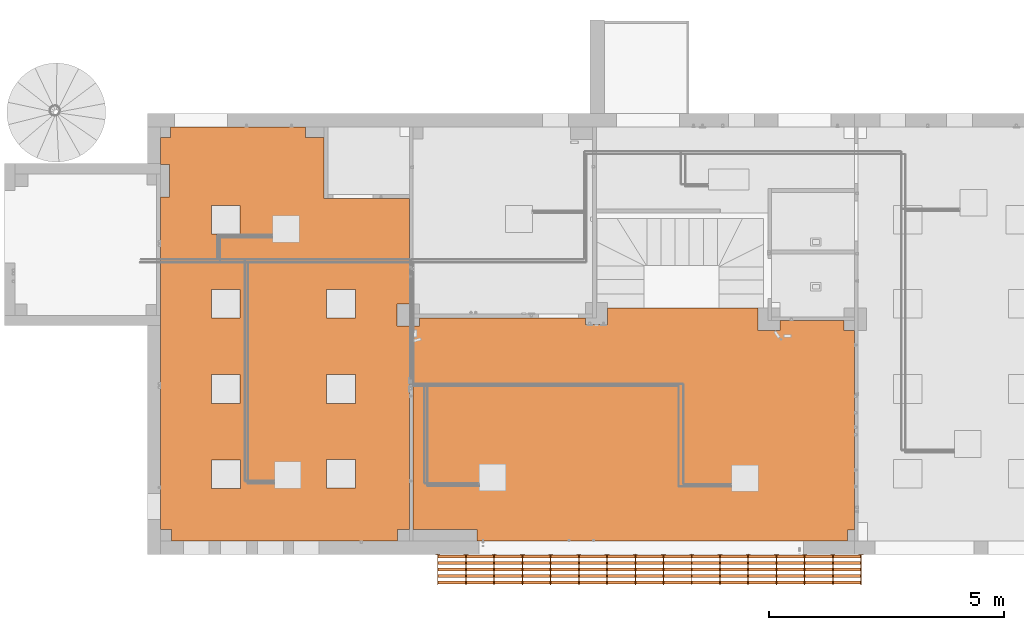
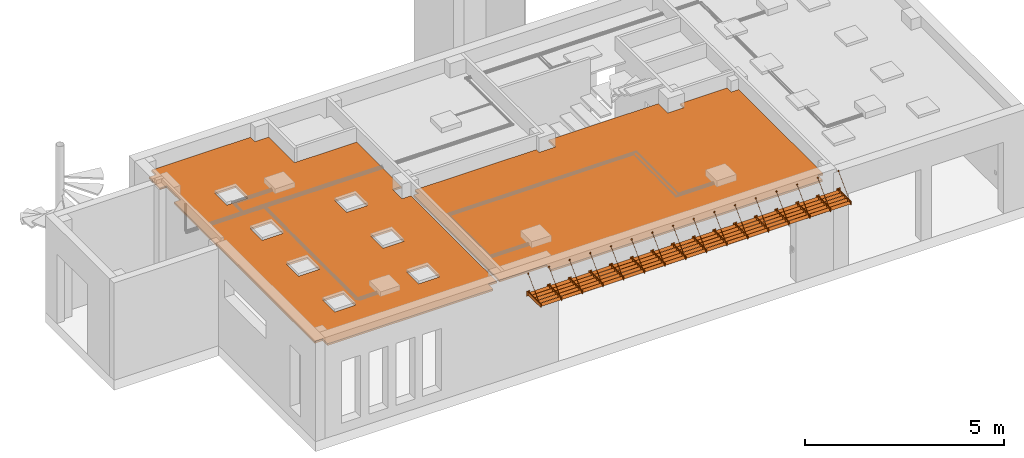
# One storey, part 18 of 24: 3 proxies.
"""IFC2X3 building model written with IfcOpenShell, lengths in millimetres."""

import ifcopenshell
import ifcopenshell.guid

model = None  # the IFC model being written
_history = None  # IfcOwnerHistory: only IFC2X3 demands one
_inside = {}  # id of a spatial element -> (the spatial element, [elements in it])
_under = {}  # id of a project, library or spatial element -> (it, [spatial elements below it])
_declared = {}  # id of a project -> (the project, [libraries it declares])
_typed = {}  # id of a type object -> (the type object, [elements of that type])
_made_of = {}  # id of a material, layer set ... -> (it, [elements and type objects made of it])


def new_model(schema):
    """Start an empty IFC model of exactly this schema.

    Asked for "IFC4X3", IfcOpenShell would pick the latest addendum, in which some entities
    have other attributes; the version numbers below select the first issue.
    IFC2X3 requires an IfcOwnerHistory on every rooted entity: one is made here for all.
    """
    global model, _history
    if schema == "IFC4X3":
        model = ifcopenshell.file(schema_version=(4, 3, 0, 0))
    else:
        model = ifcopenshell.file(schema=schema)
    _inside.clear()
    _under.clear()
    _declared.clear()
    _typed.clear()
    _made_of.clear()
    _history = None
    if model.schema == "IFC2X3":
        org = make("IfcOrganization", Name="unknown")
        user = make(
            "IfcPersonAndOrganization",
            ThePerson=make("IfcPerson", FamilyName="unknown"),
            TheOrganization=org,
        )
        app = make(
            "IfcApplication",
            ApplicationDeveloper=org,
            Version="unknown",
            ApplicationFullName="unknown",
            ApplicationIdentifier="unknown",
        )
        _history = make(
            "IfcOwnerHistory",
            OwningUser=user,
            OwningApplication=app,
            ChangeAction="ADDED",
            CreationDate=0,
        )
    return model


def make(cls, **values):
    """One entity of the class cls with the attributes given. An attribute that is None is left unset."""
    return model.create_entity(
        cls, **{name: value for name, value in values.items() if value is not None}
    )


def entity(cls, *values):
    """Any entity or typed value of the class cls, its attributes in the order of the schema. None: left unset."""
    e = model.create_entity(cls)
    for i, value in enumerate(values):
        if value is not None:
            e[i] = value
    return e


def rooted(cls, **values):
    """An entity with a GlobalId (a new one), such as an element, a storey or a relation."""
    return make(cls, GlobalId=ifcopenshell.guid.new(), OwnerHistory=_history, **values)


def si_unit(unit_type, name, prefix=None):
    """IfcSIUnit, for example si_unit("LENGTHUNIT", "METRE", prefix="MILLI")."""
    return make("IfcSIUnit", UnitType=unit_type, Prefix=prefix, Name=name)


def converted_unit(unit_type, name, factor, base, dimensions=None, offset=None):
    """IfcConversionBasedUnit, such as the inch: factor (a typed value) times the base unit."""
    return make(
        "IfcConversionBasedUnit"
        if offset is None
        else "IfcConversionBasedUnitWithOffset",
        ConversionOffset=offset,
        Dimensions=None
        if dimensions is None
        else entity("IfcDimensionalExponents", *dimensions),
        UnitType=unit_type,
        Name=name,
        ConversionFactor=make(
            "IfcMeasureWithUnit", ValueComponent=factor, UnitComponent=base
        ),
    )


def derived_unit(unit_type, elements):
    """IfcDerivedUnit: a product of units, each with its exponent."""
    return make(
        "IfcDerivedUnit",
        Elements=[
            make("IfcDerivedUnitElement", Unit=unit, Exponent=power)
            for unit, power in elements
        ],
        UnitType=unit_type,
    )


def assignment(units):
    """IfcUnitAssignment: the units of a project."""
    return None if units is None else make("IfcUnitAssignment", Units=units)


def point(xyz):
    """IfcCartesianPoint."""
    return None if xyz is None else make("IfcCartesianPoint", Coordinates=xyz)


def direction(xyz):
    """IfcDirection."""
    return None if xyz is None else make("IfcDirection", DirectionRatios=xyz)


def frame(location, z_axis=None, x_axis=None):
    """IfcAxis2Placement3D, a coordinate frame: its origin and axes. An axis left out is left unset."""
    return make(
        "IfcAxis2Placement3D",
        Location=point(location),
        Axis=direction(z_axis),
        RefDirection=direction(x_axis),
    )


def frame_2d(location, x_axis=None):
    """IfcAxis2Placement2D, a coordinate frame in the plane: its origin and x axis."""
    return make(
        "IfcAxis2Placement2D", Location=point(location), RefDirection=direction(x_axis)
    )


def origin():
    """The frame at (0, 0, 0) with its axes left unset."""
    return frame((0.0, 0.0, 0.0))


def origin_2d_with_axis():
    """The frame at (0, 0) in the plane with the x axis (1, 0) written out."""
    return frame_2d((0.0, 0.0), x_axis=(1.0, 0.0))


def place(relative_to, where):
    """IfcLocalPlacement: puts the frame where relative to a parent placement (None: the world)."""
    return make(
        "IfcLocalPlacement", PlacementRelTo=relative_to, RelativePlacement=where
    )


def context(
    kind, dimensions, precision=None, world=None, true_north=None, identifier=None
):
    """IfcGeometricRepresentationContext, for example the 3D "Model" context."""
    return make(
        "IfcGeometricRepresentationContext",
        ContextIdentifier=identifier,
        ContextType=kind,
        CoordinateSpaceDimension=dimensions,
        Precision=precision,
        WorldCoordinateSystem=world,
        TrueNorth=true_north,
    )


def subcontext(parent, identifier, kind, view, scale=None):
    """IfcGeometricRepresentationSubContext, for example "Body" below "Model"."""
    return make(
        "IfcGeometricRepresentationSubContext",
        ContextIdentifier=identifier,
        ContextType=kind,
        ParentContext=parent,
        TargetScale=scale,
        TargetView=view,
    )


def project(units=None, contexts=None):
    """IfcProject with its units and contexts."""
    return rooted(
        "IfcProject",
        Name="project",
        RepresentationContexts=contexts,
        UnitsInContext=assignment(units),
    )


def spatial(cls, under=None, at=None, **own):
    """A site, building, storey or space (cls), placed at a placement, below another one or the project."""
    s = rooted(cls, ObjectPlacement=at, **own)
    if under is not None:
        _under.setdefault(under.id(), (under, []))[1].append(s)
    return s


def polyline(points):
    """IfcPolyline through the points."""
    return make("IfcPolyline", Points=[point(p) for p in points])


def profile(cls, at=None, kind="AREA", **sizes):
    """A parametric profile (cls). Its sizes go by their IFC names, for example OverallWidth=200.0."""
    return make(cls, ProfileType=kind, Position=at, **sizes)


def rectangle(**sizes):
    """IfcRectangleProfileDef."""
    return profile("IfcRectangleProfileDef", **sizes)


def circle(**sizes):
    """IfcCircleProfileDef."""
    return profile("IfcCircleProfileDef", **sizes)


def outline(outer, holes=None, kind="AREA"):
    """IfcArbitraryClosedProfileDef: a profile drawn as a closed curve; with holes, ...WithVoids."""
    if holes is None:
        return make("IfcArbitraryClosedProfileDef", ProfileType=kind, OuterCurve=outer)
    return make(
        "IfcArbitraryProfileDefWithVoids",
        ProfileType=kind,
        OuterCurve=outer,
        InnerCurves=holes,
    )


def extrude(swept, where, along, depth):
    """IfcExtrudedAreaSolid: the profile swept, set in the frame where, extruded along a direction by depth."""
    return make(
        "IfcExtrudedAreaSolid",
        SweptArea=swept,
        Position=where,
        ExtrudedDirection=direction(along),
        Depth=depth,
    )


def shape(context_of_items, identifier, shape_type, items):
    """IfcShapeRepresentation: the items that make up one representation, for example the "Body"."""
    return make(
        "IfcShapeRepresentation",
        ContextOfItems=context_of_items,
        RepresentationIdentifier=identifier,
        RepresentationType=shape_type,
        Items=items,
    )


def source(mapping_origin, context_of_items, identifier, shape_type, items):
    """IfcRepresentationMap: a shape defined once, which mapped items show again and again."""
    return make(
        "IfcRepresentationMap",
        MappingOrigin=mapping_origin,
        MappedRepresentation=shape(context_of_items, identifier, shape_type, items),
    )


def transform(
    local_origin,
    x_axis=None,
    y_axis=None,
    z_axis=None,
    scale=None,
    scale2=None,
    scale3=None,
    uniform=True,
):
    """IfcCartesianTransformationOperator3D, or its non-uniform kind. x_axis, y_axis, z_axis: its Axis1, 2, 3."""
    if uniform:
        return make(
            "IfcCartesianTransformationOperator3D",
            Axis1=direction(x_axis),
            Axis2=direction(y_axis),
            LocalOrigin=point(local_origin),
            Scale=scale,
            Axis3=direction(z_axis),
        )
    return make(
        "IfcCartesianTransformationOperator3DnonUniform",
        Axis1=direction(x_axis),
        Axis2=direction(y_axis),
        LocalOrigin=point(local_origin),
        Scale=scale,
        Axis3=direction(z_axis),
        Scale2=scale2,
        Scale3=scale3,
    )


def mapped(mapping_source, mapping_target):
    """IfcMappedItem: shows the shape of a source again, moved by a transform."""
    return make(
        "IfcMappedItem", MappingSource=mapping_source, MappingTarget=mapping_target
    )


def material(Name=None, Category=None):
    """IfcMaterial."""
    return make("IfcMaterial", Name=Name, Category=Category)


def material_list(materials):
    """IfcMaterialList."""
    return make("IfcMaterialList", Materials=materials)


def made_of(thing, what):
    """Note that an element or type object is made of a material, layer set ...; save() writes the relation."""
    if what is not None:
        _made_of.setdefault(what.id(), (what, []))[1].append(thing)
    return thing


def type_object(cls, material=None, **own):
    """A type object (cls), such as IfcWallType, which elements share."""
    return made_of(rooted(cls, **own), material)


def type_shapes(of_type, sources):
    """Give a type object the sources (RepresentationMaps) that its elements show as mapped items."""
    of_type.RepresentationMaps = sources


def element(
    cls,
    number,
    at=None,
    inside=None,
    cuts=None,
    type_object=None,
    material=None,
    context=None,
    identifier="Body",
    shape_type=None,
    held_by="IfcProductDefinitionShape",
    body=None,
    shapes=None,
    **own,
):
    """One element of the class cls, such as IfcWall. Its Tag is "e" and its number.

    at: its placement. inside: the storey or other place that contains it. cuts: it is an
    opening in that element (IfcRelVoidsElement). A single representation is given by context,
    identifier, shape_type and body (its items); several are given by shapes. held_by: the class
    of the entity that holds the representations. save() writes the other relations.
    """
    e = rooted(cls, Tag="e%d" % number, ObjectPlacement=at, **own)
    if body is not None:
        shapes = [shape(context, identifier, shape_type, body)]
    if shapes is not None:
        e.Representation = make(held_by, Representations=shapes)
    if inside is not None:
        _inside.setdefault(inside.id(), (inside, []))[1].append(e)
    if cuts is not None:
        rooted(
            "IfcRelVoidsElement", RelatingBuildingElement=cuts, RelatedOpeningElement=e
        )
    if type_object is not None:
        _typed.setdefault(type_object.id(), (type_object, []))[1].append(e)
    return made_of(e, material)


def aggregate(whole, parts):
    """IfcRelAggregates: a whole, such as a stair, and the parts it consists of."""
    return rooted("IfcRelAggregates", RelatingObject=whole, RelatedObjects=parts)


def save(model, path):
    """Write the relations noted so far, then the file.

    IfcRelAggregates (storeys below a building ...), IfcRelContainedInSpatialStructure (elements
    in a storey), IfcRelDefinesByType, IfcRelAssociatesMaterial and IfcRelDeclares: one each for
    every whole, place, type object, material and project.
    """
    for whole, parts in _under.values():
        aggregate(whole, parts)
    for where, things in _inside.values():
        rooted(
            "IfcRelContainedInSpatialStructure",
            RelatedElements=things,
            RelatingStructure=where,
        )
    for kind, things in _typed.values():
        rooted("IfcRelDefinesByType", RelatedObjects=things, RelatingType=kind)
    for what, things in _made_of.values():
        rooted("IfcRelAssociatesMaterial", RelatedObjects=things, RelatingMaterial=what)
    for by, libraries in _declared.values():
        rooted("IfcRelDeclares", RelatingContext=by, RelatedDefinitions=libraries)
    model.write(path)


model = new_model("IFC2X3")

# Units and contexts
model_context = context("Model", 3, precision=0.01, world=origin(), true_north=direction((6.123031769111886e-17, 1.0)))
body_context = subcontext(model_context, "Body", "Model", "MODEL_VIEW")
ifc_project = project(units=[si_unit("LENGTHUNIT", "METRE", prefix="MILLI"), si_unit("AREAUNIT", "SQUARE_METRE"), si_unit("VOLUMEUNIT", "CUBIC_METRE"), converted_unit("PLANEANGLEUNIT", "DEGREE", entity("IfcRatioMeasure", 0.017453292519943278), si_unit("PLANEANGLEUNIT", "RADIAN"), dimensions=[0, 0, 0, 0, 0, 0, 0]), si_unit("MASSUNIT", "GRAM", prefix="KILO"), derived_unit("MASSDENSITYUNIT", [(si_unit("MASSUNIT", "GRAM", prefix="KILO"), 1), (si_unit("LENGTHUNIT", "METRE"), -3)]), derived_unit("MOMENTOFINERTIAUNIT", [(si_unit("LENGTHUNIT", "METRE"), 4)]), si_unit("TIMEUNIT", "SECOND"), si_unit("FREQUENCYUNIT", "HERTZ"), si_unit("THERMODYNAMICTEMPERATUREUNIT", "DEGREE_CELSIUS"), derived_unit("THERMALTRANSMITTANCEUNIT", [(si_unit("MASSUNIT", "GRAM", prefix="KILO"), 1), (si_unit("THERMODYNAMICTEMPERATUREUNIT", "KELVIN"), -1), (si_unit("TIMEUNIT", "SECOND"), -3)]), derived_unit("VOLUMETRICFLOWRATEUNIT", [(si_unit("LENGTHUNIT", "METRE"), 3), (si_unit("TIMEUNIT", "SECOND"), -1)]), derived_unit("MASSFLOWRATEUNIT", [(si_unit("MASSUNIT", "GRAM", prefix="KILO"), 1), (si_unit("TIMEUNIT", "SECOND"), -1)]), derived_unit("ROTATIONALFREQUENCYUNIT", [(si_unit("TIMEUNIT", "SECOND"), -1)]), si_unit("ELECTRICCURRENTUNIT", "AMPERE"), si_unit("ELECTRICVOLTAGEUNIT", "VOLT"), si_unit("POWERUNIT", "WATT"), si_unit("FORCEUNIT", "NEWTON", prefix="KILO"), si_unit("ILLUMINANCEUNIT", "LUX"), si_unit("LUMINOUSFLUXUNIT", "LUMEN"), si_unit("LUMINOUSINTENSITYUNIT", "CANDELA"), derived_unit("USERDEFINED", [(si_unit("MASSUNIT", "GRAM", prefix="KILO"), -1), (si_unit("LENGTHUNIT", "METRE"), -2), (si_unit("TIMEUNIT", "SECOND"), 3), (si_unit("LUMINOUSFLUXUNIT", "LUMEN"), 1)]), derived_unit("SOUNDPOWERUNIT", [(si_unit("MASSUNIT", "GRAM", prefix="KILO"), 1), (si_unit("LENGTHUNIT", "METRE"), 2), (si_unit("TIMEUNIT", "SECOND"), -3)]), derived_unit("SOUNDPRESSUREUNIT", [(si_unit("MASSUNIT", "GRAM", prefix="KILO"), 1), (si_unit("LENGTHUNIT", "METRE"), -1), (si_unit("TIMEUNIT", "SECOND"), -2)]), derived_unit("LINEARVELOCITYUNIT", [(si_unit("LENGTHUNIT", "METRE"), 1), (si_unit("TIMEUNIT", "SECOND"), -1)]), si_unit("PRESSUREUNIT", "PASCAL"), derived_unit("USERDEFINED", [(si_unit("LENGTHUNIT", "METRE"), -2), (si_unit("MASSUNIT", "GRAM", prefix="KILO"), 1), (si_unit("TIMEUNIT", "SECOND"), -2)]), derived_unit("LINEARFORCEUNIT", [(si_unit("MASSUNIT", "GRAM", prefix="KILO"), 1), (si_unit("LENGTHUNIT", "METRE"), 1), (si_unit("TIMEUNIT", "SECOND"), -2), (si_unit("LENGTHUNIT", "METRE"), -1)]), derived_unit("PLANARFORCEUNIT", [(si_unit("MASSUNIT", "GRAM", prefix="KILO"), 1), (si_unit("LENGTHUNIT", "METRE"), 1), (si_unit("TIMEUNIT", "SECOND"), -2), (si_unit("LENGTHUNIT", "METRE"), -2)])], contexts=[model_context])

# Site, building, storey
site_placement = place(None, origin())
site = spatial("IfcSite", under=ifc_project, at=site_placement, Name="Default", CompositionType="ELEMENT")
building_placement = place(site_placement, origin())
building = spatial("IfcBuilding", under=site, at=building_placement, CompositionType="ELEMENT")
storey_placement = place(building_placement, origin())
storey = spatial("IfcBuildingStorey", under=building, at=storey_placement, Name="Level 1", CompositionType="ELEMENT", Elevation=0.0)

# Proxies
ifc_material_1 = material(Name="Metal - Aluminum")
ifc_material_2 = material(Name="Metal - Steel, Galvinized")
ifc_material_3 = material(Name="Metal - Steel, Painted Maroon")
ifc_material_4 = material(Name="Metal - Aluminum, Painted White")
ifc_material_list_1 = material_list([ifc_material_1, ifc_material_1, ifc_material_2, ifc_material_3, ifc_material_3, ifc_material_1, ifc_material_1, ifc_material_2, ifc_material_3, ifc_material_3, ifc_material_1, ifc_material_1, ifc_material_2, ifc_material_3, ifc_material_3, ifc_material_1, ifc_material_1, ifc_material_2, ifc_material_3, ifc_material_3, ifc_material_1, ifc_material_1, ifc_material_2, ifc_material_3, ifc_material_3, ifc_material_1, ifc_material_1, ifc_material_2, ifc_material_3, ifc_material_3, ifc_material_1, ifc_material_1, ifc_material_2, ifc_material_3, ifc_material_3, ifc_material_4, ifc_material_4, ifc_material_4, ifc_material_1, ifc_material_1, ifc_material_2, ifc_material_3, ifc_material_3, ifc_material_1, ifc_material_1, ifc_material_2, ifc_material_3, ifc_material_3, ifc_material_1, ifc_material_1, ifc_material_2, ifc_material_3, ifc_material_3, ifc_material_4, ifc_material_1, ifc_material_1, ifc_material_2, ifc_material_3, ifc_material_3, ifc_material_1, ifc_material_1, ifc_material_2, ifc_material_3, ifc_material_3, ifc_material_4, ifc_material_1, ifc_material_1, ifc_material_2, ifc_material_3, ifc_material_3, ifc_material_1, ifc_material_1, ifc_material_2, ifc_material_3, ifc_material_3, ifc_material_1, ifc_material_1, ifc_material_2, ifc_material_3, ifc_material_3, ifc_material_1, ifc_material_1, ifc_material_2, ifc_material_3, ifc_material_3])
ifc_material_list_2 = material_list([ifc_material_1, ifc_material_1, ifc_material_2, ifc_material_3, ifc_material_3, ifc_material_1, ifc_material_1, ifc_material_2, ifc_material_3, ifc_material_3, ifc_material_1, ifc_material_1, ifc_material_2, ifc_material_3, ifc_material_3, ifc_material_1, ifc_material_1, ifc_material_2, ifc_material_3, ifc_material_3, ifc_material_1, ifc_material_1, ifc_material_2, ifc_material_3, ifc_material_3, ifc_material_1, ifc_material_1, ifc_material_2, ifc_material_3, ifc_material_3, ifc_material_1, ifc_material_1, ifc_material_2, ifc_material_3, ifc_material_3, ifc_material_4, ifc_material_4, ifc_material_4, ifc_material_1, ifc_material_1, ifc_material_2, ifc_material_3, ifc_material_3, ifc_material_1, ifc_material_1, ifc_material_2, ifc_material_3, ifc_material_3, ifc_material_1, ifc_material_1, ifc_material_2, ifc_material_3, ifc_material_3, ifc_material_4, ifc_material_1, ifc_material_1, ifc_material_2, ifc_material_3, ifc_material_3, ifc_material_1, ifc_material_1, ifc_material_2, ifc_material_3, ifc_material_3, ifc_material_4, ifc_material_1, ifc_material_1, ifc_material_2, ifc_material_3, ifc_material_3, ifc_material_1, ifc_material_1, ifc_material_2, ifc_material_3, ifc_material_3, ifc_material_1, ifc_material_1, ifc_material_2, ifc_material_3, ifc_material_3, ifc_material_1, ifc_material_1, ifc_material_2, ifc_material_3, ifc_material_3])
building_element_proxy_type_1 = type_object("IfcBuildingElementProxyType", Name="rac_advanced_sample_family:M_Solar_Shade_Complete:M_Solar_Shade_Complete : rac_advanced_sample_family:M_Solar_Shade_Complete", PredefinedType="NOTDEFINED", material=ifc_material_list_2)
shared_shape_1 = source(origin(), body_context, "Body", "SweptSolid", [
    extrude(circle(Radius=19.0, at=origin_2d_with_axis()), frame((5148.394995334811, -4090.83848673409, 3000.0), z_axis=(0.0, 1.0, 0.0), x_axis=(1.0, 0.0, 0.0)), (0.0, 0.0, 1.0), 14.999999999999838),
    extrude(circle(Radius=25.0, at=origin_2d_with_axis()), frame((5148.394995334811, -4085.83848673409, 3000.0), z_axis=(0.0, 1.0, 0.0), x_axis=(1.0, 0.0, 0.0)), (0.0, 0.0, 1.0), 9.999999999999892),
    extrude(circle(Radius=4.0, at=origin_2d_with_axis()), frame((5148.394995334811, -4628.83848673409, 2450.0), z_axis=(0.0, 0.7071067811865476, 0.7071067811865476), x_axis=(0.0, -0.7071067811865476, 0.7071067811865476)), (0.0, 0.0, 1.0), 779.9416644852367),
    extrude(rectangle(XDim=19.999999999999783, YDim=652.9999999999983, at=frame_2d((0.0, 2.8421709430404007e-13), x_axis=(1.0, 0.0))), frame((5148.394995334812, -4402.338486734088, 2350.0)), (0.0, 0.0, 1.0), 100.0),
    extrude(rectangle(XDim=9.999999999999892, YDim=100.0, at=frame_2d((0.0, 5.435651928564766e-13), x_axis=(1.0, 0.0))), frame((5148.394995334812, -4080.83848673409, 2325.0), z_axis=(0.0, 0.0, 1.0), x_axis=(0.0, -1.0, 0.0)), (0.0, 0.0, 1.0), 150.00000000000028),
    extrude(circle(Radius=19.0, at=origin_2d_with_axis()), frame((4548.33329422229, -4090.83848673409, 3000.0), z_axis=(0.0, 1.0, 0.0), x_axis=(1.0, 0.0, 0.0)), (0.0, 0.0, 1.0), 14.999999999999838),
    extrude(circle(Radius=25.0, at=origin_2d_with_axis()), frame((4548.33329422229, -4085.83848673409, 3000.0), z_axis=(0.0, 1.0, 0.0), x_axis=(1.0, 0.0, 0.0)), (0.0, 0.0, 1.0), 9.999999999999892),
    extrude(circle(Radius=4.0, at=origin_2d_with_axis()), frame((4548.33329422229, -4628.83848673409, 2450.0), z_axis=(0.0, 0.7071067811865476, 0.7071067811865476), x_axis=(0.0, -0.7071067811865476, 0.7071067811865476)), (0.0, 0.0, 1.0), 779.9416644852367),
    extrude(rectangle(XDim=19.999999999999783, YDim=652.9999999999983, at=frame_2d((0.0, 2.8421709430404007e-13), x_axis=(1.0, 0.0))), frame((4548.33329422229, -4402.338486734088, 2350.0)), (0.0, 0.0, 1.0), 100.0),
    extrude(rectangle(XDim=9.999999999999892, YDim=100.0, at=origin_2d_with_axis()), frame((4548.33329422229, -4080.83848673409, 2325.0), z_axis=(0.0, 0.0, 1.0), x_axis=(0.0, -1.0, 0.0)), (0.0, 0.0, 1.0), 150.00000000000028),
    extrude(circle(Radius=19.0, at=origin_2d_with_axis()), frame((3948.2715931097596, -4090.83848673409, 3000.0), z_axis=(0.0, 1.0, 0.0), x_axis=(1.0, 0.0, 0.0)), (0.0, 0.0, 1.0), 14.999999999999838),
    extrude(circle(Radius=25.0, at=origin_2d_with_axis()), frame((3948.2715931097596, -4085.83848673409, 3000.0), z_axis=(0.0, 1.0, 0.0), x_axis=(1.0, 0.0, 0.0)), (0.0, 0.0, 1.0), 9.999999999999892),
    extrude(circle(Radius=4.0, at=origin_2d_with_axis()), frame((3948.2715931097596, -4628.83848673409, 2450.0), z_axis=(0.0, 0.7071067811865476, 0.7071067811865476), x_axis=(0.0, -0.7071067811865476, 0.7071067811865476)), (0.0, 0.0, 1.0), 779.9416644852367),
    extrude(rectangle(XDim=19.999999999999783, YDim=652.9999999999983, at=frame_2d((0.0, 2.8421709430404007e-13), x_axis=(1.0, 0.0))), frame((3948.2715931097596, -4402.338486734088, 2350.0)), (0.0, 0.0, 1.0), 100.0),
    extrude(rectangle(XDim=9.999999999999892, YDim=100.0, at=origin_2d_with_axis()), frame((3948.271593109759, -4080.83848673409, 2325.0), z_axis=(0.0, 0.0, 1.0), x_axis=(0.0, -1.0, 0.0)), (0.0, 0.0, 1.0), 150.00000000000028),
    extrude(circle(Radius=19.0, at=origin_2d_with_axis()), frame((3348.20989199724, -4090.83848673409, 3000.0), z_axis=(0.0, 1.0, 0.0), x_axis=(1.0, 0.0, 0.0)), (0.0, 0.0, 1.0), 14.999999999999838),
    extrude(circle(Radius=25.0, at=origin_2d_with_axis()), frame((3348.20989199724, -4085.83848673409, 3000.0), z_axis=(0.0, 1.0, 0.0), x_axis=(1.0, 0.0, 0.0)), (0.0, 0.0, 1.0), 9.999999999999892),
    extrude(circle(Radius=4.0, at=origin_2d_with_axis()), frame((3348.20989199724, -4628.83848673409, 2450.0), z_axis=(0.0, 0.7071067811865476, 0.7071067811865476), x_axis=(0.0, -0.7071067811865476, 0.7071067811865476)), (0.0, 0.0, 1.0), 779.9416644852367),
    extrude(rectangle(XDim=19.999999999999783, YDim=652.9999999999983, at=frame_2d((0.0, 2.8421709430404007e-13), x_axis=(1.0, 0.0))), frame((3348.20989199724, -4402.338486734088, 2350.0)), (0.0, 0.0, 1.0), 100.0),
    extrude(rectangle(XDim=9.999999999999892, YDim=100.0, at=origin_2d_with_axis()), frame((3348.2098919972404, -4080.83848673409, 2325.0), z_axis=(0.0, 0.0, 1.0), x_axis=(0.0, -1.0, 0.0)), (0.0, 0.0, 1.0), 150.00000000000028),
    extrude(circle(Radius=19.0, at=origin_2d_with_axis()), frame((2748.148190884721, -4090.83848673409, 3000.0), z_axis=(0.0, 1.0, 0.0), x_axis=(1.0, 0.0, 0.0)), (0.0, 0.0, 1.0), 14.999999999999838),
    extrude(circle(Radius=25.0, at=origin_2d_with_axis()), frame((2748.148190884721, -4085.83848673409, 3000.0), z_axis=(0.0, 1.0, 0.0), x_axis=(1.0, 0.0, 0.0)), (0.0, 0.0, 1.0), 9.999999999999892),
    extrude(circle(Radius=4.0, at=origin_2d_with_axis()), frame((2748.148190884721, -4628.83848673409, 2450.0), z_axis=(0.0, 0.7071067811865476, 0.7071067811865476), x_axis=(0.0, -0.7071067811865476, 0.7071067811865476)), (0.0, 0.0, 1.0), 779.9416644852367),
    extrude(rectangle(XDim=20.000000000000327, YDim=652.9999999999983, at=frame_2d((2.708944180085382e-13, 2.8421709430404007e-13), x_axis=(1.0, 0.0))), frame((2748.148190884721, -4402.338486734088, 2350.0)), (0.0, 0.0, 1.0), 100.0),
    extrude(rectangle(XDim=9.999999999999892, YDim=100.0, at=origin_2d_with_axis()), frame((2748.148190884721, -4080.83848673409, 2325.0), z_axis=(0.0, 0.0, 1.0), x_axis=(0.0, -1.0, 0.0)), (0.0, 0.0, 1.0), 150.00000000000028),
    extrude(circle(Radius=19.0, at=origin_2d_with_axis()), frame((2148.08648977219, -4090.83848673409, 3000.0), z_axis=(0.0, 1.0, 0.0), x_axis=(1.0, 0.0, 0.0)), (0.0, 0.0, 1.0), 14.999999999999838),
    extrude(circle(Radius=25.0, at=origin_2d_with_axis()), frame((2148.08648977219, -4085.83848673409, 3000.0), z_axis=(0.0, 1.0, 0.0), x_axis=(1.0, 0.0, 0.0)), (0.0, 0.0, 1.0), 9.999999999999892),
    extrude(circle(Radius=4.0, at=origin_2d_with_axis()), frame((2148.08648977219, -4628.83848673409, 2450.0), z_axis=(0.0, 0.7071067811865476, 0.7071067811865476), x_axis=(0.0, -0.7071067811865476, 0.7071067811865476)), (0.0, 0.0, 1.0), 779.9416644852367),
    extrude(rectangle(XDim=20.000000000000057, YDim=652.9999999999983, at=frame_2d((-1.3589129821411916e-13, 2.8421709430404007e-13), x_axis=(1.0, 0.0))), frame((2148.08648977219, -4402.338486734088, 2350.0)), (0.0, 0.0, 1.0), 100.0),
    extrude(rectangle(XDim=9.999999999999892, YDim=100.0, at=origin_2d_with_axis()), frame((2148.08648977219, -4080.83848673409, 2325.0), z_axis=(0.0, 0.0, 1.0), x_axis=(0.0, -1.0, 0.0)), (0.0, 0.0, 1.0), 150.00000000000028),
    extrude(circle(Radius=19.0, at=origin_2d_with_axis()), frame((1548.0247886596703, -4090.83848673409, 3000.0), z_axis=(0.0, 1.0, 0.0), x_axis=(1.0, 0.0, 0.0)), (0.0, 0.0, 1.0), 14.999999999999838),
    extrude(circle(Radius=25.0, at=origin_2d_with_axis()), frame((1548.0247886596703, -4085.83848673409, 3000.0), z_axis=(0.0, 1.0, 0.0), x_axis=(1.0, 0.0, 0.0)), (0.0, 0.0, 1.0), 9.999999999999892),
    extrude(circle(Radius=4.0, at=origin_2d_with_axis()), frame((1548.0247886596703, -4628.83848673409, 2450.0), z_axis=(0.0, 0.7071067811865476, 0.7071067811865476), x_axis=(0.0, -0.7071067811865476, 0.7071067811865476)), (0.0, 0.0, 1.0), 779.9416644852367),
    extrude(rectangle(XDim=20.000000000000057, YDim=652.9999999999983, at=frame_2d((1.3589129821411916e-13, 2.8421709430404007e-13), x_axis=(1.0, 0.0))), frame((1548.0247886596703, -4402.338486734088, 2350.0)), (0.0, 0.0, 1.0), 100.0),
    extrude(rectangle(XDim=9.999999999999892, YDim=100.0, at=origin_2d_with_axis()), frame((1548.0247886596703, -4080.83848673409, 2325.0), z_axis=(0.0, 0.0, 1.0), x_axis=(0.0, -1.0, 0.0)), (0.0, 0.0, 1.0), 150.00000000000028),
    extrude(rectangle(XDim=84.99999999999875, YDim=9.999999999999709, at=frame_2d((1.9539925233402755e-13, 1.9273471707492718e-13), x_axis=(1.0, 0.0))), frame((-3252.4688202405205, -4537.052952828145, 2396.4644660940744), z_axis=(1.0, 0.0, 0.0), x_axis=(0.0, 0.7071067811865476, 0.7071067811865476)), (0.0, 0.0, 1.0), 9000.92551668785),
    extrude(rectangle(XDim=9.999999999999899, YDim=84.99999999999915, at=frame_2d((-2.8554936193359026e-13, -9.947598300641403e-14), x_axis=(1.0, 0.0))), frame((-3252.4688202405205, -4398.802952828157, 2396.4644660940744), z_axis=(1.0, 0.0, 0.0), x_axis=(0.0, -0.7071067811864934, 0.7071067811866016)), (0.0, 0.0, 1.0), 9000.925516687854),
    extrude(rectangle(XDim=9.999999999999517, YDim=84.99999999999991, at=frame_2d((0.0, 0.0), x_axis=(0.0, 1.0))), frame((-3252.4688202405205, -4260.55295282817, 2396.4644660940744), z_axis=(1.0, 0.0, 0.0), x_axis=(0.0, -0.7071067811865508, -0.7071067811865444)), (0.0, 0.0, 1.0), 9000.925516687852),
    extrude(circle(Radius=19.0, at=origin_2d_with_axis()), frame((947.9630875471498, -4090.83848673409, 3000.0), z_axis=(0.0, 1.0, 0.0), x_axis=(1.0, 0.0, 0.0)), (0.0, 0.0, 1.0), 14.999999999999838),
    extrude(circle(Radius=25.0, at=origin_2d_with_axis()), frame((947.9630875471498, -4085.83848673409, 3000.0), z_axis=(0.0, 1.0, 0.0), x_axis=(1.0, 0.0, 0.0)), (0.0, 0.0, 1.0), 9.999999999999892),
    extrude(circle(Radius=4.0, at=origin_2d_with_axis()), frame((947.9630875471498, -4628.83848673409, 2450.0), z_axis=(0.0, 0.7071067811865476, 0.7071067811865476), x_axis=(0.0, -0.7071067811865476, 0.7071067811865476)), (0.0, 0.0, 1.0), 779.9416644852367),
    extrude(rectangle(XDim=20.000000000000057, YDim=652.9999999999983, at=frame_2d((1.3589129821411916e-13, 2.8421709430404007e-13), x_axis=(1.0, 0.0))), frame((947.9630875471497, -4402.338486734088, 2350.0)), (0.0, 0.0, 1.0), 100.0),
    extrude(rectangle(XDim=9.999999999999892, YDim=100.0, at=origin_2d_with_axis()), frame((947.9630875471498, -4080.83848673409, 2325.0), z_axis=(0.0, 0.0, 1.0), x_axis=(0.0, -1.0, 0.0)), (0.0, 0.0, 1.0), 150.00000000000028),
    extrude(circle(Radius=19.0, at=origin_2d_with_axis()), frame((347.90138643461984, -4090.83848673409, 3000.0), z_axis=(0.0, 1.0, 0.0), x_axis=(1.0, 0.0, 0.0)), (0.0, 0.0, 1.0), 14.999999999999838),
    extrude(circle(Radius=25.0, at=origin_2d_with_axis()), frame((347.90138643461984, -4085.83848673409, 3000.0), z_axis=(0.0, 1.0, 0.0), x_axis=(1.0, 0.0, 0.0)), (0.0, 0.0, 1.0), 9.999999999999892),
    extrude(circle(Radius=4.0, at=origin_2d_with_axis()), frame((347.90138643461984, -4628.83848673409, 2450.0), z_axis=(0.0, 0.7071067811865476, 0.7071067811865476), x_axis=(0.0, -0.7071067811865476, 0.7071067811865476)), (0.0, 0.0, 1.0), 779.9416644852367),
    extrude(rectangle(XDim=19.99999999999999, YDim=652.9999999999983, at=frame_2d((3.375077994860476e-14, 2.8421709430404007e-13), x_axis=(1.0, 0.0))), frame((347.90138643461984, -4402.338486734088, 2350.0)), (0.0, 0.0, 1.0), 100.0),
    extrude(rectangle(XDim=9.999999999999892, YDim=99.99999999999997, at=frame_2d((0.0, 1.4210854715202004e-14), x_axis=(1.0, 0.0))), frame((347.90138643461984, -4080.83848673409, 2325.0), z_axis=(0.0, 0.0, 1.0), x_axis=(0.0, -1.0, 0.0)), (0.0, 0.0, 1.0), 150.00000000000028),
    extrude(circle(Radius=19.0, at=origin_2d_with_axis()), frame((-252.16031467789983, -4090.83848673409, 3000.0), z_axis=(0.0, 1.0, 0.0), x_axis=(1.0, 0.0, 0.0)), (0.0, 0.0, 1.0), 14.999999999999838),
    extrude(circle(Radius=25.0, at=origin_2d_with_axis()), frame((-252.16031467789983, -4085.83848673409, 3000.0), z_axis=(0.0, 1.0, 0.0), x_axis=(1.0, 0.0, 0.0)), (0.0, 0.0, 1.0), 9.999999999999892),
    extrude(circle(Radius=4.0, at=origin_2d_with_axis()), frame((-252.16031467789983, -4628.83848673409, 2450.0), z_axis=(0.0, 0.7071067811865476, 0.7071067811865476), x_axis=(0.0, -0.7071067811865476, 0.7071067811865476)), (0.0, 0.0, 1.0), 779.9416644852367),
    extrude(rectangle(XDim=20.00000000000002, YDim=652.9999999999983, at=frame_2d((1.687538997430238e-14, 2.8421709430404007e-13), x_axis=(1.0, 0.0))), frame((-252.16031467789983, -4402.338486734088, 2350.0)), (0.0, 0.0, 1.0), 100.0),
    extrude(rectangle(XDim=9.999999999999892, YDim=99.99999999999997, at=frame_2d((0.0, -1.4210854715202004e-14), x_axis=(1.0, 0.0))), frame((-252.16031467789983, -4080.83848673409, 2325.0), z_axis=(0.0, 0.0, 1.0), x_axis=(0.0, -1.0, 0.0)), (0.0, 0.0, 1.0), 150.00000000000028),
    extrude(rectangle(XDim=9.999999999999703, YDim=85.00000000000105, at=origin_2d_with_axis()), frame((-3252.4688202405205, -4675.302952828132, 2396.4644660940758), z_axis=(1.0, 0.0, 0.0), x_axis=(0.0, -0.7071067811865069, 0.7071067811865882)), (0.0, 0.0, 1.0), 9000.925516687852),
    extrude(circle(Radius=19.0, at=origin_2d_with_axis()), frame((-852.2220157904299, -4090.83848673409, 3000.0), z_axis=(0.0, 1.0, 0.0), x_axis=(1.0, 0.0, 0.0)), (0.0, 0.0, 1.0), 14.999999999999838),
    extrude(circle(Radius=25.0, at=origin_2d_with_axis()), frame((-852.2220157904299, -4085.83848673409, 3000.0), z_axis=(0.0, 1.0, 0.0), x_axis=(1.0, 0.0, 0.0)), (0.0, 0.0, 1.0), 9.999999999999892),
    extrude(circle(Radius=4.0, at=origin_2d_with_axis()), frame((-852.2220157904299, -4628.83848673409, 2450.0), z_axis=(0.0, 0.7071067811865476, 0.7071067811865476), x_axis=(0.0, -0.7071067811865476, 0.7071067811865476)), (0.0, 0.0, 1.0), 779.9416644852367),
    extrude(rectangle(XDim=20.000000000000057, YDim=652.9999999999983, at=frame_2d((0.0, 2.8421709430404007e-13), x_axis=(1.0, 0.0))), frame((-852.2220157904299, -4402.338486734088, 2350.0)), (0.0, 0.0, 1.0), 100.0),
    extrude(rectangle(XDim=9.999999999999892, YDim=100.0, at=origin_2d_with_axis()), frame((-852.2220157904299, -4080.83848673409, 2325.0), z_axis=(0.0, 0.0, 1.0), x_axis=(0.0, -1.0, 0.0)), (0.0, 0.0, 1.0), 150.00000000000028),
    extrude(circle(Radius=19.0, at=origin_2d_with_axis()), frame((-1452.2837169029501, -4090.83848673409, 3000.0), z_axis=(0.0, 1.0, 0.0), x_axis=(1.0, 0.0, 0.0)), (0.0, 0.0, 1.0), 14.999999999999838),
    extrude(circle(Radius=25.0, at=origin_2d_with_axis()), frame((-1452.2837169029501, -4085.83848673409, 3000.0), z_axis=(0.0, 1.0, 0.0), x_axis=(1.0, 0.0, 0.0)), (0.0, 0.0, 1.0), 9.999999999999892),
    extrude(circle(Radius=4.0, at=origin_2d_with_axis()), frame((-1452.2837169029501, -4628.83848673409, 2450.0), z_axis=(0.0, 0.7071067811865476, 0.7071067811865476), x_axis=(0.0, -0.7071067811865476, 0.7071067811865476)), (0.0, 0.0, 1.0), 779.9416644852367),
    extrude(rectangle(XDim=20.000000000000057, YDim=652.9999999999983, at=frame_2d((1.3589129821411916e-13, 2.8421709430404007e-13), x_axis=(1.0, 0.0))), frame((-1452.2837169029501, -4402.338486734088, 2350.0)), (0.0, 0.0, 1.0), 100.0),
    extrude(rectangle(XDim=9.999999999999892, YDim=100.0, at=origin_2d_with_axis()), frame((-1452.2837169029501, -4080.83848673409, 2325.0), z_axis=(0.0, 0.0, 1.0), x_axis=(0.0, -1.0, 0.0)), (0.0, 0.0, 1.0), 150.00000000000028),
    extrude(rectangle(XDim=84.99999999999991, YDim=9.999999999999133, at=frame_2d((3.801403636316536e-13, -3.82804898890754e-13), x_axis=(1.0, 0.0))), frame((-3252.4688202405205, -4122.302952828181, 2396.4644660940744), z_axis=(1.0, 0.0, 0.0), x_axis=(0.0, -0.7071067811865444, -0.7071067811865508)), (0.0, 0.0, 1.0), 9000.925516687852),
    extrude(circle(Radius=19.0, at=origin_2d_with_axis()), frame((-2052.34541801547, -4090.83848673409, 3000.0), z_axis=(0.0, 1.0, 0.0), x_axis=(1.0, 0.0, 0.0)), (0.0, 0.0, 1.0), 14.999999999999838),
    extrude(circle(Radius=25.0, at=origin_2d_with_axis()), frame((-2052.34541801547, -4085.83848673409, 3000.0), z_axis=(0.0, 1.0, 0.0), x_axis=(1.0, 0.0, 0.0)), (0.0, 0.0, 1.0), 9.999999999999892),
    extrude(circle(Radius=4.0, at=origin_2d_with_axis()), frame((-2052.34541801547, -4628.83848673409, 2450.0), z_axis=(0.0, 0.7071067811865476, 0.7071067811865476), x_axis=(0.0, -0.7071067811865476, 0.7071067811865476)), (0.0, 0.0, 1.0), 779.9416644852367),
    extrude(rectangle(XDim=19.999999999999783, YDim=652.9999999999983, at=frame_2d((0.0, 2.8421709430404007e-13), x_axis=(1.0, 0.0))), frame((-2052.34541801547, -4402.338486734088, 2350.0)), (0.0, 0.0, 1.0), 100.0),
    extrude(rectangle(XDim=9.999999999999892, YDim=100.0, at=origin_2d_with_axis()), frame((-2052.34541801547, -4080.83848673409, 2325.0), z_axis=(0.0, 0.0, 1.0), x_axis=(0.0, -1.0, 0.0)), (0.0, 0.0, 1.0), 150.00000000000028),
    extrude(circle(Radius=19.0, at=origin_2d_with_axis()), frame((-2652.407119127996, -4090.83848673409, 3000.0), z_axis=(0.0, 1.0, 0.0), x_axis=(1.0, 0.0, 0.0)), (0.0, 0.0, 1.0), 14.999999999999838),
    extrude(circle(Radius=25.0, at=origin_2d_with_axis()), frame((-2652.407119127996, -4085.83848673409, 3000.0), z_axis=(0.0, 1.0, 0.0), x_axis=(1.0, 0.0, 0.0)), (0.0, 0.0, 1.0), 9.999999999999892),
    extrude(circle(Radius=4.0, at=origin_2d_with_axis()), frame((-2652.407119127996, -4628.83848673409, 2450.0), z_axis=(0.0, 0.7071067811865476, 0.7071067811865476), x_axis=(0.0, -0.7071067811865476, 0.7071067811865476)), (0.0, 0.0, 1.0), 779.9416644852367),
    extrude(rectangle(XDim=20.000000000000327, YDim=652.9999999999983, at=frame_2d((2.708944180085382e-13, 2.8421709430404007e-13), x_axis=(1.0, 0.0))), frame((-2652.4071191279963, -4402.338486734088, 2350.0)), (0.0, 0.0, 1.0), 100.0),
    extrude(rectangle(XDim=9.999999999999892, YDim=100.0, at=origin_2d_with_axis()), frame((-2652.407119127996, -4080.83848673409, 2325.0), z_axis=(0.0, 0.0, 1.0), x_axis=(0.0, -1.0, 0.0)), (0.0, 0.0, 1.0), 150.00000000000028),
    extrude(circle(Radius=19.0, at=origin_2d_with_axis()), frame((5748.456696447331, -4090.83848673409, 3000.0), z_axis=(0.0, 1.0, 0.0), x_axis=(1.0, 0.0, 0.0)), (0.0, 0.0, 1.0), 14.999999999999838),
    extrude(circle(Radius=25.0, at=origin_2d_with_axis()), frame((5748.456696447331, -4085.83848673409, 3000.0), z_axis=(0.0, 1.0, 0.0), x_axis=(1.0, 0.0, 0.0)), (0.0, 0.0, 1.0), 9.999999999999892),
    extrude(circle(Radius=4.0, at=origin_2d_with_axis()), frame((5748.456696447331, -4628.83848673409, 2450.0), z_axis=(0.0, 0.7071067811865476, 0.7071067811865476), x_axis=(0.0, -0.7071067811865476, 0.7071067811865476)), (0.0, 0.0, 1.0), 779.9416644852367),
    extrude(rectangle(XDim=19.999999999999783, YDim=652.9999999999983, at=frame_2d((0.0, 2.8421709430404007e-13), x_axis=(1.0, 0.0))), frame((5748.456696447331, -4402.338486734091, 2350.0)), (0.0, 0.0, 1.0), 100.0),
    extrude(rectangle(XDim=9.999999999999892, YDim=100.0, at=frame_2d((0.0, -5.435651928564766e-13), x_axis=(1.0, 0.0))), frame((5748.456696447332, -4080.83848673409, 2325.0), z_axis=(0.0, 0.0, 1.0), x_axis=(0.0, -1.0, 0.0)), (0.0, 0.0, 1.0), 150.00000000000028),
    extrude(circle(Radius=19.0, at=origin_2d_with_axis()), frame((-3252.4688202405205, -4090.83848673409, 3000.0), z_axis=(0.0, 1.0, 0.0), x_axis=(1.0, 0.0, 0.0)), (0.0, 0.0, 1.0), 14.999999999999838),
    extrude(circle(Radius=25.0, at=origin_2d_with_axis()), frame((-3252.4688202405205, -4085.83848673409, 3000.0), z_axis=(0.0, 1.0, 0.0), x_axis=(1.0, 0.0, 0.0)), (0.0, 0.0, 1.0), 9.999999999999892),
    extrude(circle(Radius=4.0, at=origin_2d_with_axis()), frame((-3252.4688202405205, -4628.83848673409, 2450.0), z_axis=(0.0, 0.7071067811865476, 0.7071067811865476), x_axis=(0.0, -0.7071067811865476, 0.7071067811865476)), (0.0, 0.0, 1.0), 779.9416644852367),
    extrude(rectangle(XDim=20.000000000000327, YDim=652.9999999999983, at=frame_2d((2.708944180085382e-13, 2.8421709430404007e-13), x_axis=(1.0, 0.0))), frame((-3252.4688202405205, -4402.338486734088, 2350.0)), (0.0, 0.0, 1.0), 100.0),
    extrude(rectangle(XDim=9.999999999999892, YDim=100.0, at=origin_2d_with_axis()), frame((-3252.4688202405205, -4080.83848673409, 2325.0), z_axis=(0.0, 0.0, 1.0), x_axis=(0.0, -1.0, 0.0)), (0.0, 0.0, 1.0), 150.00000000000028),
])
type_shapes(building_element_proxy_type_1, [shared_shape_1])
proxy_1_placement = place(storey_placement, origin())
element("IfcBuildingElementProxy", 1, at=proxy_1_placement, inside=storey, type_object=building_element_proxy_type_1, material=ifc_material_list_1, context=body_context, shape_type="MappedRepresentation", body=[
    mapped(shared_shape_1, transform((0.0, 0.0, 0.0), scale=1.0)),
])
ifc_material_5 = material(Name="Ceiling Tile 600 x 600")
building_element_proxy_type_2 = type_object("IfcBuildingElementProxyType", Name="Compound Ceiling:My ceiling mineral fiber:My ceiling mineral fiber : Compound Ceiling:My ceiling mineral fiber", PredefinedType="NOTDEFINED", material=ifc_material_5)
shared_shape_2 = source(origin(), body_context, "Body", "SweptSolid", [
    extrude(outline(polyline([(1301.87886397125, 1558.0215064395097), (1443.7143905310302, 1558.0215064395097), (1443.7143905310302, 5085.02150643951), (1268.21439053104, 5085.02150643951), (1268.21439053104, 5220.52150643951), (-3053.6154861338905, 5220.52150643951), (-3053.6154861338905, 3860.521506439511), (-3301.49134254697, 3860.521506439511), (-3301.49134254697, -4010.55206554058), (-3063.61548613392, -4010.55206554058), (-3063.61548613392, -4160.552065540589), (1181.87886397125, -4160.552065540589), (1181.87886397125, -3945.05206554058), (1386.7716628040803, -3945.05206554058), (1386.7716628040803, -2582.9756677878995), (1180.6320715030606, -2582.9756677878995), (1180.6320715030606, -2107.9756677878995), (1655.6320715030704, -2107.9756677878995), (1655.6320715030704, 1083.0215064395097), (1301.87886397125, 1083.0215064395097), (1301.87886397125, 1558.0215064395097)])), frame((1445.1657276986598, -494.34714418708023, 2600.0), z_axis=(0.0, 0.0, 1.0), x_axis=(0.0, 1.0, 0.0)), (0.0, 0.0, 1.0), 57.000000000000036),
])
type_shapes(building_element_proxy_type_2, [shared_shape_2])
proxy_2_placement = place(storey_placement, origin())
element("IfcBuildingElementProxy", 2, at=proxy_2_placement, inside=storey, type_object=building_element_proxy_type_2, material=ifc_material_5, context=body_context, shape_type="MappedRepresentation", body=[
    mapped(shared_shape_2, transform((0.0, 0.0, 0.0), scale=1.0)),
])
building_element_proxy_type_3 = type_object("IfcBuildingElementProxyType", Name="Compound Ceiling:My ceiling mineral fiber:My ceiling mineral fiber : Compound Ceiling:My ceiling mineral fiber", PredefinedType="NOTDEFINED", material=ifc_material_5)
shared_shape_3 = source(origin(), body_context, "Body", "SweptSolid", [
    extrude(outline(polyline([(-2677.3766496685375, 2338.9619131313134), (-2677.3766496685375, 2530.961913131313), (-3242.7369677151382, 2530.961913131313), (-3242.7369677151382, 2321.0758912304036), (-3471.8611113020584, 2321.0758912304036), (-3471.8611113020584, -551.4241087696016), (-3247.2369677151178, -551.4241087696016), (-3247.2369677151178, -948.9241087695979), (-1954.8187748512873, -948.9241087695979), (-1954.8187748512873, -2757.018831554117), (290.433155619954, -2757.018831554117), (290.433155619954, -2499.5188315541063), (765.4331556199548, -2499.5188315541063), (765.4331556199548, -2757.018831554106), (5087.263032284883, -2757.018831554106), (5087.263032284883, -2507.018831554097), (5335.138888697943, -2507.018831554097), (5335.138888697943, 2298.961913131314), (5093.138888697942, 2298.961913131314), (5093.138888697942, 2530.9619131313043), (-1977.3766496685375, 2530.9619131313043), (-1977.3766496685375, 2338.9619131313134), (-2677.3766496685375, 2338.9619131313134)]), holes=[polyline([(3606.9742864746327, 835.8659691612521), (3606.9742864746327, 1445.4659691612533), (4216.574286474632, 1445.4659691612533), (4216.574286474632, 835.8659691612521), (3606.9742864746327, 835.8659691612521)]), polyline([(1796.171512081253, 841.3921315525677), (1796.171512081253, 1450.9921315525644), (2405.771512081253, 1450.9921315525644), (2405.771512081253, 841.3921315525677), (1796.171512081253, 841.3921315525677)]), polyline([(1796.171512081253, -1608.6078684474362), (1796.171512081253, -999.0078684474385), (2405.771512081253, -999.0078684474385), (2405.771512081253, -1608.6078684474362), (1796.171512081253, -1608.6078684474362)]), polyline([(3596.1715200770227, -1608.6078684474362), (3596.1715200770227, -999.0078684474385), (4205.771520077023, -999.0078684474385), (4205.771520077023, -1608.6078684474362), (3596.1715200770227, -1608.6078684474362)]), polyline([(-1803.8284799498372, 841.3921315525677), (-1803.8284799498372, 1450.9921315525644), (-1194.2284799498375, 1450.9921315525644), (-1194.2284799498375, 841.3921315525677), (-1803.8284799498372, 841.3921315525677)]), polyline([(-19.666844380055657, 841.3921315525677), (-19.666844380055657, 1450.9921315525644), (589.933155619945, 1450.9921315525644), (589.933155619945, 841.3921315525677), (-19.666844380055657, 841.3921315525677)]), polyline([(-19.666844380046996, -1608.6078684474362), (-19.666844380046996, -999.0078684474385), (589.933155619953, -999.0078684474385), (589.933155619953, -1608.6078684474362), (-19.666844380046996, -1608.6078684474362)])]), frame((-6614.374610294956, 1539.300401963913, 2600.0), z_axis=(0.0, 0.0, -1.0), x_axis=(0.0, -1.0, 0.0)), (0.0, 0.0, -1.0), 57.000000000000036),
])
type_shapes(building_element_proxy_type_3, [shared_shape_3])
proxy_3_placement = place(storey_placement, origin())
element("IfcBuildingElementProxy", 3, at=proxy_3_placement, inside=storey, type_object=building_element_proxy_type_3, material=ifc_material_5, context=body_context, shape_type="MappedRepresentation", body=[
    mapped(shared_shape_3, transform((0.0, 0.0, 0.0), scale=1.0)),
])

save(model, "model.ifc")
